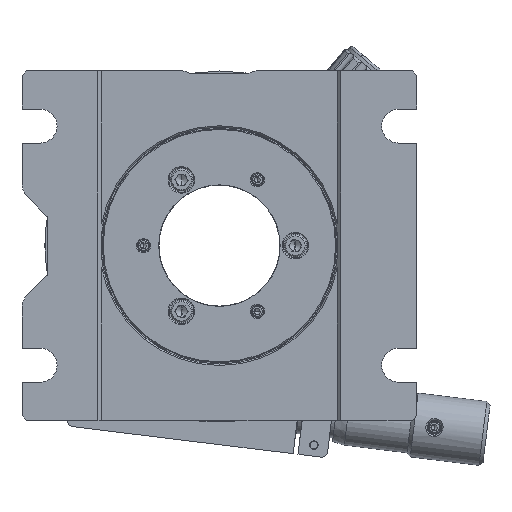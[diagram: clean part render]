
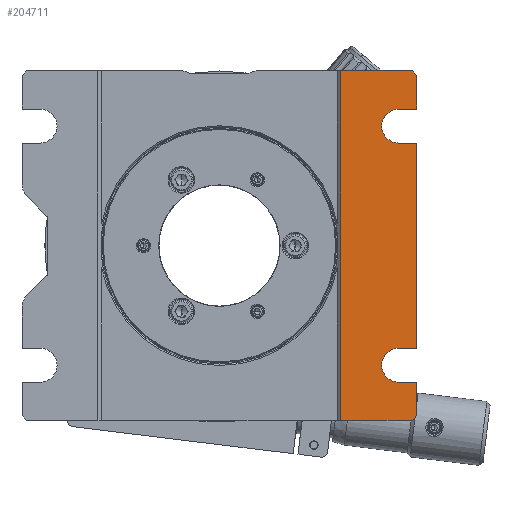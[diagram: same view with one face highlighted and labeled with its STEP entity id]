
A CAD part, front view. The second image highlights one B-rep face of the part: STEP entity #204711.
In plain terms, the highlighted planar face has unit normal (0, -1, 0).
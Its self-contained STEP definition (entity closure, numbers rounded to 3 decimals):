
#636 = CARTESIAN_POINT ( 'NONE',  ( 37.49, 0., -28.553 ) ) ;
#1014 = DIRECTION ( 'NONE',  ( -0.707, 0., -0.707 ) ) ;
#4829 = CARTESIAN_POINT ( 'NONE',  ( -41.275, 0., 36.576 ) ) ;
#9224 = VERTEX_POINT ( 'NONE', #38565 ) ;
#9976 = EDGE_CURVE ( 'NONE', #126656, #75090, #128397, .T. ) ;
#15534 = EDGE_CURVE ( 'NONE', #9224, #85528, #45915, .T. ) ;
#17226 = ORIENTED_EDGE ( 'NONE', *, *, #152987, .F. ) ;
#17975 = CARTESIAN_POINT ( 'NONE',  ( 41.275, 0., -36.576 ) ) ;
#18780 = DIRECTION ( 'NONE',  ( 0., 0., 1. ) ) ;
#20972 = VECTOR ( 'NONE', #196665, 1000. ) ;
#22338 = CARTESIAN_POINT ( 'NONE',  ( 41.275, 0., -28.553 ) ) ;
#23335 = ORIENTED_EDGE ( 'NONE', *, *, #89435, .T. ) ;
#25126 = ORIENTED_EDGE ( 'NONE', *, *, #88215, .F. ) ;
#28732 = CIRCLE ( 'NONE', #101936, 3.556 ) ;
#28978 = VECTOR ( 'NONE', #72321, 1000. ) ;
#31538 = CARTESIAN_POINT ( 'NONE',  ( -41.275, 0., -28.553 ) ) ;
#32159 = VERTEX_POINT ( 'NONE', #636 ) ;
#32607 = DIRECTION ( 'NONE',  ( 0., 0., 1. ) ) ;
#33355 = CARTESIAN_POINT ( 'NONE',  ( 41.275, 0., 21.441 ) ) ;
#38565 = CARTESIAN_POINT ( 'NONE',  ( 25.4, 0., 36.576 ) ) ;
#43895 = VERTEX_POINT ( 'NONE', #128252 ) ;
#44155 = VERTEX_POINT ( 'NONE', #97973 ) ;
#45915 = LINE ( 'NONE', #53573, #20972 ) ;
#47908 = ORIENTED_EDGE ( 'NONE', *, *, #199895, .T. ) ;
#52127 = DIRECTION ( 'NONE',  ( 0., 1., 0. ) ) ;
#52398 = DIRECTION ( 'NONE',  ( 1., 0., 0. ) ) ;
#53573 = CARTESIAN_POINT ( 'NONE',  ( 25.4, 0., -36.576 ) ) ;
#53793 = EDGE_CURVE ( 'NONE', #76892, #75090, #171654, .T. ) ;
#57421 = DIRECTION ( 'NONE',  ( 0., 0., 1. ) ) ;
#57622 = CARTESIAN_POINT ( 'NONE',  ( 41.275, 0., -35.576 ) ) ;
#58658 = VERTEX_POINT ( 'NONE', #161723 ) ;
#61289 = DIRECTION ( 'NONE',  ( 0., 0., 1. ) ) ;
#63561 = ORIENTED_EDGE ( 'NONE', *, *, #78573, .F. ) ;
#65555 = LINE ( 'NONE', #92103, #102846 ) ;
#67716 = ORIENTED_EDGE ( 'NONE', *, *, #95351, .F. ) ;
#67926 = CARTESIAN_POINT ( 'NONE',  ( 40.275, 0., -36.576 ) ) ;
#68120 = PLANE ( 'NONE',  #98100 ) ;
#69951 = DIRECTION ( 'NONE',  ( 1., 0., 0. ) ) ;
#72321 = DIRECTION ( 'NONE',  ( 0., 0., 1. ) ) ;
#74175 = LINE ( 'NONE', #187770, #96546 ) ;
#75090 = VERTEX_POINT ( 'NONE', #33355 ) ;
#75939 = CARTESIAN_POINT ( 'NONE',  ( -41.275, 0., 28.553 ) ) ;
#76892 = VERTEX_POINT ( 'NONE', #115073 ) ;
#78573 = EDGE_CURVE ( 'NONE', #58658, #32159, #150996, .T. ) ;
#85528 = VERTEX_POINT ( 'NONE', #190561 ) ;
#86379 = ORIENTED_EDGE ( 'NONE', *, *, #15534, .T. ) ;
#87125 = VECTOR ( 'NONE', #52398, 1000. ) ;
#88215 = EDGE_CURVE ( 'NONE', #126656, #58658, #65555, .T. ) ;
#88301 = VECTOR ( 'NONE', #203826, 1000. ) ;
#88820 = DIRECTION ( 'NONE',  ( 0.707, 0., -0.707 ) ) ;
#89393 = DIRECTION ( 'NONE',  ( 0., -1., 0. ) ) ;
#89435 = EDGE_CURVE ( 'NONE', #44155, #9224, #95311, .T. ) ;
#92103 = CARTESIAN_POINT ( 'NONE',  ( -41.275, 0., -21.441 ) ) ;
#95311 = LINE ( 'NONE', #131966, #117605 ) ;
#95351 = EDGE_CURVE ( 'NONE', #189292, #137925, #189408, .T. ) ;
#96546 = VECTOR ( 'NONE', #61289, 1000. ) ;
#97973 = CARTESIAN_POINT ( 'NONE',  ( 40.275, 0., 36.576 ) ) ;
#98100 = AXIS2_PLACEMENT_3D ( 'NONE', #4829, #52127, #18780 ) ;
#98776 = CARTESIAN_POINT ( 'NONE',  ( 41.275, 0., -21.441 ) ) ;
#100378 = ORIENTED_EDGE ( 'NONE', *, *, #192903, .T. ) ;
#101936 = AXIS2_PLACEMENT_3D ( 'NONE', #109343, #203111, #201734 ) ;
#102322 = ORIENTED_EDGE ( 'NONE', *, *, #9976, .T. ) ;
#102846 = VECTOR ( 'NONE', #184550, 1000. ) ;
#103476 = DIRECTION ( 'NONE',  ( -1., 0., 0. ) ) ;
#107641 = ORIENTED_EDGE ( 'NONE', *, *, #53793, .F. ) ;
#108240 = LINE ( 'NONE', #31538, #88301 ) ;
#109343 = CARTESIAN_POINT ( 'NONE',  ( 37.49, 0., 24.997 ) ) ;
#115073 = CARTESIAN_POINT ( 'NONE',  ( 37.49, 0., 21.441 ) ) ;
#117207 = CARTESIAN_POINT ( 'NONE',  ( -41.275, 0., -36.576 ) ) ;
#117605 = VECTOR ( 'NONE', #103476, 1000. ) ;
#124834 = VECTOR ( 'NONE', #88820, 1000. ) ;
#125426 = VECTOR ( 'NONE', #187801, 1000. ) ;
#126656 = VERTEX_POINT ( 'NONE', #98776 ) ;
#128252 = CARTESIAN_POINT ( 'NONE',  ( 41.275, 0., 35.576 ) ) ;
#128397 = LINE ( 'NONE', #167506, #28978 ) ;
#129296 = VECTOR ( 'NONE', #69951, 1000. ) ;
#131874 = LINE ( 'NONE', #117207, #129296 ) ;
#131966 = CARTESIAN_POINT ( 'NONE',  ( -41.275, 0., 36.576 ) ) ;
#134460 = VECTOR ( 'NONE', #32607, 1000. ) ;
#137925 = VERTEX_POINT ( 'NONE', #67926 ) ;
#138931 = VERTEX_POINT ( 'NONE', #22338 ) ;
#140326 = LINE ( 'NONE', #75939, #125426 ) ;
#144364 = ORIENTED_EDGE ( 'NONE', *, *, #201150, .T. ) ;
#145961 = EDGE_CURVE ( 'NONE', #161710, #76892, #28732, .T. ) ;
#147035 = VECTOR ( 'NONE', #1014, 1000. ) ;
#147897 = CARTESIAN_POINT ( 'NONE',  ( 40.275, 0., 36.576 ) ) ;
#150996 = CIRCLE ( 'NONE', #182315, 3.556 ) ;
#152987 = EDGE_CURVE ( 'NONE', #169301, #161710, #140326, .T. ) ;
#158089 = CARTESIAN_POINT ( 'NONE',  ( 41.275, 0., -35.576 ) ) ;
#158818 = EDGE_CURVE ( 'NONE', #44155, #43895, #174520, .T. ) ;
#161710 = VERTEX_POINT ( 'NONE', #184525 ) ;
#161723 = CARTESIAN_POINT ( 'NONE',  ( 37.49, 0., -21.441 ) ) ;
#164911 = CARTESIAN_POINT ( 'NONE',  ( -41.275, 0., 21.441 ) ) ;
#167506 = CARTESIAN_POINT ( 'NONE',  ( 41.275, 0., -36.576 ) ) ;
#167972 = CARTESIAN_POINT ( 'NONE',  ( 41.275, 0., 28.553 ) ) ;
#168593 = CARTESIAN_POINT ( 'NONE',  ( 37.49, 0., -24.997 ) ) ;
#169301 = VERTEX_POINT ( 'NONE', #167972 ) ;
#171639 = EDGE_CURVE ( 'NONE', #32159, #138931, #108240, .T. ) ;
#171654 = LINE ( 'NONE', #164911, #87125 ) ;
#171823 = LINE ( 'NONE', #17975, #134460 ) ;
#174520 = LINE ( 'NONE', #147897, #124834 ) ;
#182315 = AXIS2_PLACEMENT_3D ( 'NONE', #168593, #89393, #57421 ) ;
#183757 = FACE_OUTER_BOUND ( 'NONE', #193728, .T. ) ;
#184525 = CARTESIAN_POINT ( 'NONE',  ( 37.49, 0., 28.553 ) ) ;
#184550 = DIRECTION ( 'NONE',  ( -1., 0., 0. ) ) ;
#187770 = CARTESIAN_POINT ( 'NONE',  ( 41.275, 0., -36.576 ) ) ;
#187801 = DIRECTION ( 'NONE',  ( -1., 0., 0. ) ) ;
#189292 = VERTEX_POINT ( 'NONE', #57622 ) ;
#189408 = LINE ( 'NONE', #158089, #147035 ) ;
#190561 = CARTESIAN_POINT ( 'NONE',  ( 25.4, 0., -36.576 ) ) ;
#192903 = EDGE_CURVE ( 'NONE', #169301, #43895, #74175, .T. ) ;
#193728 = EDGE_LOOP ( 'NONE', ( #100378, #201494, #23335, #86379, #144364, #67716, #47908, #194912, #63561, #25126, #102322, #107641, #199598, #17226 ) ) ;
#194912 = ORIENTED_EDGE ( 'NONE', *, *, #171639, .F. ) ;
#196665 = DIRECTION ( 'NONE',  ( 0., 0., -1. ) ) ;
#199598 = ORIENTED_EDGE ( 'NONE', *, *, #145961, .F. ) ;
#199895 = EDGE_CURVE ( 'NONE', #189292, #138931, #171823, .T. ) ;
#201150 = EDGE_CURVE ( 'NONE', #85528, #137925, #131874, .T. ) ;
#201494 = ORIENTED_EDGE ( 'NONE', *, *, #158818, .F. ) ;
#201734 = DIRECTION ( 'NONE',  ( 0., 0., 1. ) ) ;
#203111 = DIRECTION ( 'NONE',  ( 0., -1., 0. ) ) ;
#203826 = DIRECTION ( 'NONE',  ( 1., 0., 0. ) ) ;
#204711 = ADVANCED_FACE ( 'NONE', ( #183757 ), #68120, .F. ) ;
